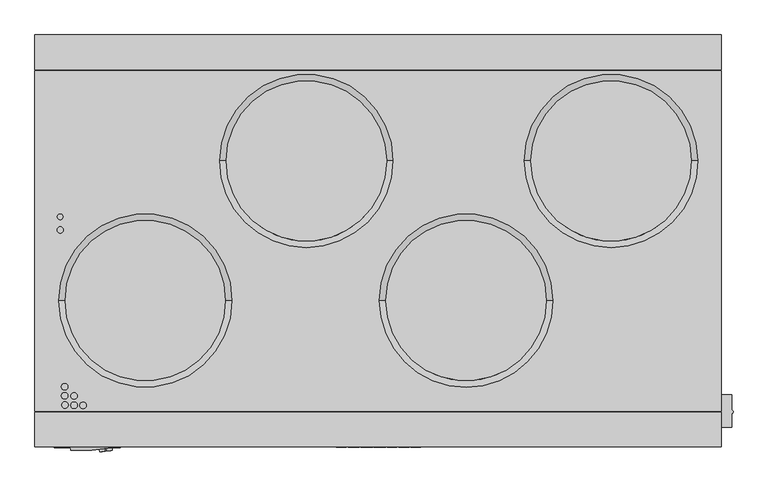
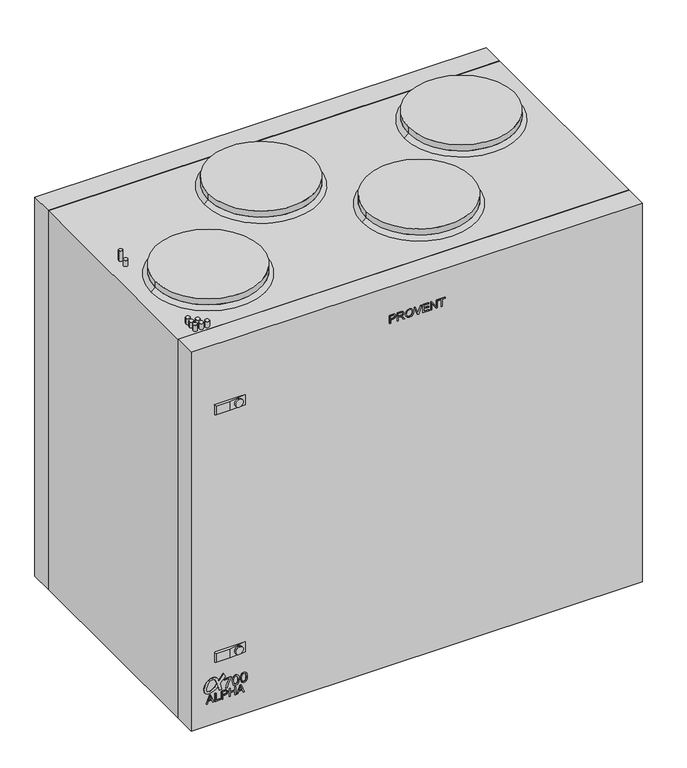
"""IFC4 building model written with IfcOpenShell, lengths in millimetres: proxy geometry, PROVENT_Вертикальная приточно-вытяжная установка_ALPHA 700 V_L : Provent ALPHA 700 V (L)."""

from ifc_helpers import new_model, si_unit, point, frame, frame_2d, origin, origin_with_axes, place, context, project, spatial, polyline, circle_curve, trimmed, segment, composite_curve, outline, extrude, faceted_brep, source, transform, mapped, element, save
from ifc_brep_helpers import plane_surface, revolved_surface, advanced_brep


def mechanical_equipment_38894424(model_context):
    return source(origin(), model_context, "Body", "SolidModel", [
        extrude(outline(composite_curve([segment(trimmed(circle_curve(frame_2d((105.733129, -470.0690454)), 0.5380284), [point((105.5307619, -469.5705255))], [point((105.5307619, -470.5675654))], True, "CARTESIAN"), True, "CONTINUOUS"), segment(polyline([(105.5307619, -470.5675654), (108.4438718, -471.6858035), (110.8786758, -472.9263981), (111.8121807, -473.5800452)]), True, "CONTINUOUS"), segment(trimmed(circle_curve(frame_2d((104.0893382, -483.5504512)), 12.6115539), [point((111.8121807, -473.5800452))], [point((116.6261852, -484.9211292))], False, "CARTESIAN"), True, "CONTINUOUS"), segment(trimmed(circle_curve(frame_2d((94.7661112, -482.5311246)), 21.9903379), [point((116.6261852, -484.9211292))], [point((104.4885666, -502.2554451))], False, "CARTESIAN"), True, "CONTINUOUS"), segment(trimmed(circle_curve(frame_2d((93.5739124, -483.7235654)), 21.5072137), [point((104.4885666, -502.2554451))], [point((86.750764, -504.1197633))], False, "CARTESIAN"), True, "CONTINUOUS"), segment(trimmed(circle_curve(frame_2d((92.3890877, -492.996238)), 12.4709065), [point((86.750764, -504.1197633))], [point((79.9366704, -492.3174069))], False, "CARTESIAN"), True, "CONTINUOUS"), segment(trimmed(circle_curve(frame_2d((110.0461474, -496.0216615)), 30.3364814), [point((79.9366704, -492.3174069))], [point((90.1381753, -473.1311667))], False, "CARTESIAN"), True, "CONTINUOUS"), segment(polyline([(90.1381753, -473.1311667), (97.4533974, -475.5080265)]), True, "CONTINUOUS"), segment(trimmed(circle_curve(frame_2d((112.8376087, -500.9701691)), 29.7488598), [point((97.4533974, -475.5080265))], [point((85.9068624, -488.3317527))], True, "CARTESIAN"), True, "CONTINUOUS"), segment(trimmed(circle_curve(frame_2d((94.2043298, -492.2256979)), 9.1657392), [point((85.9068624, -488.3317527))], [point((86.5295452, -497.2365317))], True, "CARTESIAN"), True, "CONTINUOUS"), segment(trimmed(circle_curve(frame_2d((91.0798658, -494.265647)), 5.4342961), [point((86.5295452, -497.2365317))], [point((91.5402338, -499.6804078))], True, "CARTESIAN"), True, "CONTINUOUS"), segment(trimmed(circle_curve(frame_2d((91.5850962, -480.9291601)), 18.7513014), [point((91.5402338, -499.6804078))], [point((99.8454243, -497.7630035))], True, "CARTESIAN"), True, "CONTINUOUS"), segment(trimmed(circle_curve(frame_2d((91.1893595, -472.70038)), 26.5153267), [point((99.8454243, -497.7630035))], [point((111.1844004, -490.1147675))], True, "CARTESIAN"), True, "CONTINUOUS"), segment(trimmed(circle_curve(frame_2d((105.8571487, -485.4750757)), 7.0644427), [point((111.1844004, -490.1147675))], [point((110.4868357, -480.139127))], True, "CARTESIAN"), True, "CONTINUOUS"), segment(trimmed(circle_curve(frame_2d((74.7273898, -542.7598367)), 72.1116583), [point((110.4868357, -480.139127))], [point((96.0155477, -473.8620458))], True, "CARTESIAN"), True, "CONTINUOUS"), segment(polyline([(96.0155477, -473.8620458), (80.1999436, -468.7232445), (80.1999436, -462.688951), (94.9084674, -466.4900485)]), True, "CONTINUOUS"), segment(trimmed(circle_curve(frame_2d((95.7729921, -463.1447298)), 3.4552222), [point((94.9084674, -466.4900485))], [point((98.5138308, -465.2486224))], True, "CARTESIAN"), True, "CONTINUOUS"), segment(polyline([(98.5138308, -465.2486224), (109.4841363, -455.018647)]), True, "CONTINUOUS"), segment(trimmed(circle_curve(frame_2d((110.1625275, -455.7461324)), 0.9947108), [point((109.4841363, -455.018647))], [point((110.8409186, -455.018647))], False, "CARTESIAN"), True, "CONTINUOUS"), segment(polyline([(110.8409186, -455.018647), (118.9566741, -458.9769654)]), True, "CONTINUOUS"), segment(trimmed(circle_curve(frame_2d((118.472789, -459.3205598)), 0.593466), [point((118.9566741, -458.9769654))], [point((118.8242858, -459.7987354))], False, "CARTESIAN"), True, "CONTINUOUS"), segment(polyline([(118.8242858, -459.7987354), (105.5307619, -469.5705255)]), True, "CONTINUOUS")], self_intersect=False)), frame((0.0, -322.0, 0.0), z_axis=(0.0, 1.0, 0.0), x_axis=(0.0, 0.0, 1.0)), (0.0, 0.0, 1.0), 1.0),
        extrude(outline(polyline([(55.4809879, -499.868008), (55.4809879, -497.2143525), (61.7595073, -494.9187689), (61.7595073, -486.6438766), (55.4809879, -484.3433878), (55.4809879, -481.6897324), (75.57225, -489.7095598), (75.57225, -491.8481805), (55.4809879, -499.868008)]), holes=[polyline([(64.2709151, -493.9966114), (69.6419922, -492.029669), (73.0608422, -490.7788702), (69.210344, -489.3711084), (64.2709151, -487.561129), (64.2709151, -493.9966114)])]), frame((0.0, -322.0, 0.0), z_axis=(0.0, 1.0, 0.0), x_axis=(0.0, 0.0, 1.0)), (0.0, 0.0, 1.0), 5.0),
        extrude(outline(polyline([(55.4809879, -479.0066463), (55.4809879, -466.4496076), (57.9923957, -466.4496076), (57.9923957, -476.4952386), (75.57225, -476.4952386), (75.57225, -479.0066463), (55.4809879, -479.0066463)])), frame((0.0, -322.0, 0.0), z_axis=(0.0, 1.0, 0.0), x_axis=(0.0, 0.0, 1.0)), (0.0, 0.0, 1.0), 5.0),
        extrude(outline(polyline([(55.4809879, -463.6242738), (55.4809879, -461.1128661), (63.6430631, -461.1128661), (63.6430631, -456.006664), (65.4187069, -450.1720556), (69.7597144, -448.5558273), (72.499209, -449.1542487), (74.441626, -450.7361413), (75.3809513, -453.1764252), (75.57225, -456.1783423), (75.57225, -463.6242738), (55.4809879, -463.6242738)]), holes=[polyline([(66.1544709, -461.1128661), (73.0608422, -461.1128661), (73.0608422, -455.9183723), (72.8891639, -453.4069646), (71.7511823, -451.7122548), (69.6714228, -451.0672351), (67.0766284, -452.1610709), (66.1544709, -455.8595112), (66.1544709, -461.1128661)])]), frame((0.0, -322.0, 0.0), z_axis=(0.0, 1.0, 0.0), x_axis=(0.0, 0.0, 1.0)), (0.0, 0.0, 1.0), 5.0),
        extrude(outline(polyline([(55.4809879, -445.1026417), (55.4809879, -442.5912339), (64.898767, -442.5912339), (64.898767, -431.917751), (55.4809879, -431.917751), (55.4809879, -429.4063432), (75.57225, -429.4063432), (75.57225, -431.917751), (67.4101748, -431.917751), (67.4101748, -442.5912339), (75.57225, -442.5912339), (75.57225, -445.1026417), (55.4809879, -445.1026417)])), frame((0.0, -322.0, 0.0), z_axis=(0.0, 1.0, 0.0), x_axis=(0.0, 0.0, 1.0)), (0.0, 0.0, 1.0), 5.0),
        extrude(outline(polyline([(55.4809879, -427.3511091), (55.4809879, -424.6974537), (61.7595073, -422.40187), (61.7595073, -414.1269777), (55.4809879, -411.8264889), (55.4809879, -409.1728335), (75.57225, -417.192661), (75.57225, -419.3312816), (55.4809879, -427.3511091)]), holes=[polyline([(64.2709151, -421.4797125), (69.6419922, -419.5127701), (73.0608422, -418.2619713), (69.210344, -416.8542095), (64.2709151, -415.0442301), (64.2709151, -421.4797125)])]), frame((0.0, -322.0, 0.0), z_axis=(0.0, 1.0, 0.0), x_axis=(0.0, 0.0, 1.0)), (0.0, 0.0, 1.0), 5.0),
        extrude(outline(polyline([(101.1927708, -457.0053647), (101.1927708, -443.663511), (94.6965879, -448.4091887), (86.6920888, -451.8335569), (79.6103604, -453.08129), (79.6103604, -449.9420304), (86.4345714, -448.7770707), (95.0399444, -445.1994183), (101.7936447, -440.5242513), (104.3320305, -440.5242513), (104.3320305, -457.0053647), (101.1927708, -457.0053647)])), frame((0.0, -322.0, 0.0), z_axis=(0.0, 1.0, 0.0), x_axis=(0.0, 0.0, 1.0)), (0.0, 0.0, 1.0), 5.0),
        extrude(outline(polyline([(91.9650641, -437.777399), (81.6091859, -435.2758015), (79.2179529, -429.5368424), (80.5944447, -424.9413831), (84.7699054, -422.2098593), (91.9650641, -421.2962857), (97.8665044, -421.8665028), (101.5821126, -423.3380307), (103.9150975, -425.8702851), (104.7244379, -429.5368424), (103.3571432, -434.1139075), (99.1908796, -436.8546284), (91.9650641, -437.777399)]), holes=[polyline([(91.9711954, -434.6381394), (99.9051838, -433.1175604), (101.5851782, -429.5736306), (99.6783232, -425.8580224), (91.9711954, -424.4355454), (84.1812942, -425.9070733), (82.3572126, -429.5368424), (84.1751628, -433.1666114), (91.9711954, -434.6381394)])]), frame((0.0, -322.0, 0.0), z_axis=(0.0, 1.0, 0.0), x_axis=(0.0, 0.0, 1.0)), (0.0, 0.0, 1.0), 5.0),
        extrude(outline(polyline([(91.9650641, -418.5494334), (81.6091859, -416.0478359), (79.2179529, -410.3088767), (80.5944447, -405.7134175), (84.7699054, -402.9818937), (91.9650641, -402.0683201), (97.8665044, -402.6385371), (101.5821126, -404.1100651), (103.9150975, -406.6423195), (104.7244379, -410.3088767), (103.3571432, -414.8859419), (99.1908796, -417.6266628), (91.9650641, -418.5494334)]), holes=[polyline([(91.9711954, -415.4101737), (99.9051838, -413.8895948), (101.5851782, -410.3456649), (99.6783232, -406.6300568), (91.9711954, -405.2075797), (84.1812942, -406.6791077), (82.3572126, -410.3088767), (84.1751628, -413.9386458), (91.9711954, -415.4101737)])]), frame((0.0, -322.0, 0.0), z_axis=(0.0, 1.0, 0.0), x_axis=(0.0, 0.0, 1.0)), (0.0, 0.0, 1.0), 5.0),
        extrude(outline(polyline([(858.040157, -64.9826756), (858.040157, -62.4712679), (866.2022322, -62.4712679), (866.2022322, -57.3650658), (867.977876, -51.5304573), (872.3188835, -49.9142291), (875.0583781, -50.5126505), (877.0007951, -52.0945431), (877.9401204, -54.534827), (878.1314191, -57.536744), (878.1314191, -64.9826756), (858.040157, -64.9826756)]), holes=[polyline([(868.71364, -62.4712679), (875.6200113, -62.4712679), (875.6200113, -57.2767741), (875.448333, -54.7653663), (874.3103514, -53.0706566), (872.2305919, -52.4256369), (869.6357975, -53.5194727), (868.71364, -57.217913), (868.71364, -62.4712679)])]), frame((0.0, -322.0, 0.0), z_axis=(0.0, 1.0, 0.0), x_axis=(0.0, 0.0, 1.0)), (0.0, 0.0, 1.0), 5.0),
        extrude(outline(polyline([(858.040157, -46.4610434), (858.040157, -43.9496357), (866.8300842, -43.9496357), (866.2635459, -38.2670851), (864.9612436, -36.9402574), (862.2045812, -35.0517965), (858.040157, -32.4373818), (858.040157, -29.5188513), (863.4848106, -32.86903), (866.0697947, -34.9046437), (867.1440101, -36.3320258), (869.0128507, -32.1259084), (872.6328095, -30.764745), (875.6715148, -31.5863481), (877.5894063, -33.7838299), (878.1314191, -37.8035538), (878.1314191, -46.4610434), (858.040157, -46.4610434)]), holes=[polyline([(869.3414919, -43.9496357), (875.6200113, -43.9496357), (875.6200113, -37.6956418), (874.7518098, -34.3381054), (872.5396127, -33.2761527), (870.8350928, -33.8328808), (869.6971112, -35.4613718), (869.3414919, -38.3283988), (869.3414919, -43.9496357)])]), frame((0.0, -322.0, 0.0), z_axis=(0.0, 1.0, 0.0), x_axis=(0.0, 0.0, 1.0)), (0.0, 0.0, 1.0), 5.0),
        extrude(outline(polyline([(867.820913, -27.3115593), (862.8201704, -26.1637675), (859.0922995, -22.7890633), (857.7262311, -17.7368173), (858.9623146, -12.8734173), (862.6018938, -9.3908011), (868.0514524, -8.1620752), (873.4274346, -9.3294874), (877.1209698, -12.7238119), (878.445345, -17.722102), (875.6249164, -24.6333784), (867.820913, -27.3115593)]), holes=[polyline([(867.7963875, -24.8001516), (874.0577391, -22.7056767), (875.9339373, -17.7073867), (874.9602763, -14.0212091), (872.2158766, -11.5269692), (868.0710728, -10.673483), (862.2781576, -12.6674034), (860.2376388, -17.7515325), (862.2585372, -22.7915159), (867.7963875, -24.8001516)])]), frame((0.0, -322.0, 0.0), z_axis=(0.0, 1.0, 0.0), x_axis=(0.0, 0.0, 1.0)), (0.0, 0.0, 1.0), 5.0),
        extrude(outline(polyline([(858.040157, 1.2262733), (858.040157, 3.8210677), (878.1314191, 11.4779182), (878.1314191, 8.7899271), (863.6564888, 3.4237551), (860.3946018, 2.3544448), (863.6564888, 1.2704192), (878.1314191, -4.0810376), (878.1314191, -6.7690287), (858.040157, 1.2262733)])), frame((0.0, -322.0, 0.0), z_axis=(0.0, 1.0, 0.0), x_axis=(0.0, 0.0, 1.0)), (0.0, 0.0, 1.0), 5.0),
        extrude(outline(polyline([(858.040157, 13.8127426), (858.040157, 28.5672632), (860.5515648, 28.5672632), (860.5515648, 16.3241504), (867.1440101, 16.3241504), (867.1440101, 27.6254853), (869.6554179, 27.6254853), (869.6554179, 16.3241504), (875.6200113, 16.3241504), (875.6200113, 28.2533372), (878.1314191, 28.2533372), (878.1314191, 13.8127426), (858.040157, 13.8127426)])), frame((0.0, -322.0, 0.0), z_axis=(0.0, 1.0, 0.0), x_axis=(0.0, 0.0, 1.0)), (0.0, 0.0, 1.0), 5.0),
        extrude(outline(polyline([(858.040157, 32.3343748), (858.040157, 34.8457826), (873.9620898, 34.8457826), (858.040157, 45.3426822), (858.040157, 48.0306733), (878.1314191, 48.0306733), (878.1314191, 45.5192655), (862.2143914, 45.5192655), (878.1314191, 35.0223659), (878.1314191, 32.3343748), (858.040157, 32.3343748)])), frame((0.0, -322.0, 0.0), z_axis=(0.0, 1.0, 0.0), x_axis=(0.0, 0.0, 1.0)), (0.0, 0.0, 1.0), 5.0),
        extrude(outline(polyline([(858.040157, 57.4484524), (858.040157, 59.9598601), (875.6200113, 59.9598601), (875.6200113, 66.5523055), (878.1314191, 66.5523055), (878.1314191, 50.856007), (875.6200113, 50.856007), (875.6200113, 57.4484524), (858.040157, 57.4484524)])), frame((0.0, -322.0, 0.0), z_axis=(0.0, 1.0, 0.0), x_axis=(0.0, 0.0, 1.0)), (0.0, 0.0, 1.0), 5.0),
        extrude(outline(composite_curve([segment(trimmed(circle_curve(frame_2d((137.0, -93.0)), 125.0), [point((12.0, -93.0))], [point((262.0, -93.0))], False, "CARTESIAN"), True, "CONTINUOUS"), segment(trimmed(circle_curve(frame_2d((137.0, -93.0)), 125.0), [point((262.0, -93.0))], [point((12.0, -93.0))], False, "CARTESIAN"), True, "CONTINUOUS")], self_intersect=False)), frame((0.0, 0.0, 958.5199387), z_axis=(0.0, 0.0, 1.0), x_axis=(1.0, 0.0, 0.0)), (0.0, 0.0, 1.0), 15.0),
        advanced_brep(
        [(12.0, -93.0, 958.5199387), (262.0, -93.0, 958.5199387), (2.0, -93.0, 950.0), (272.0, -93.0, 950.0)],
        [
            (0, 1, circle_curve(frame((137.0, -93.0, 958.5199387), z_axis=(0.0, 0.0, 1.0), x_axis=(-1.0, 0.0, 0.0)), 125.0)),
            (1, 0, circle_curve(frame((137.0, -93.0, 958.5199387), z_axis=(0.0, 0.0, 1.0), x_axis=(1.0, 0.0, 0.0)), 125.0)),
            (2, 3, circle_curve(frame((137.0, -93.0, 950.0), z_axis=(0.0, 0.0, -1.0), x_axis=(1.0, 0.0, 0.0)), 135.0)),
            (3, 2, circle_curve(frame((137.0, -93.0, 950.0), z_axis=(0.0, 0.0, -1.0), x_axis=(-1.0, 0.0, 0.0)), 135.0)),
            (3, 1),
            (0, 2),
        ],
        [
            plane_surface(frame((137.0, -93.0, 958.5199387), z_axis=(0.0, 0.0, 1.0), x_axis=(0.0, -1.0, 0.0))),
            plane_surface(frame((137.0, -93.0, 950.0), z_axis=(0.0, 0.0, -1.0), x_axis=(0.0, -1.0, 0.0))),
            revolved_surface(polyline([(12.000000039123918, -93.0, 958.5199387), (2.0, -93.0, 950.0)]), (137.0, -93.0, 1065.019172), (0.0, 0.0, -1.0)),
            revolved_surface(polyline([(261.9999999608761, -93.0, 958.5199387), (272.0, -93.0, 950.0)]), (137.0, -93.0, 1065.019172), (0.0, 0.0, -1.0)),
        ],
        [
            (0, [[1, 2]]),
            (1, [[3, 4]]),
            (2, [[-4, 5, -1, 6]]),
            (3, [[-3, -6, -2, -5]]),
        ],
    ),
        extrude(outline(composite_curve([segment(trimmed(circle_curve(frame_2d((-363.0, -93.0)), 125.0), [point((-488.0, -93.0))], [point((-238.0, -93.0))], False, "CARTESIAN"), True, "CONTINUOUS"), segment(trimmed(circle_curve(frame_2d((-363.0, -93.0)), 125.0), [point((-238.0, -93.0))], [point((-488.0, -93.0))], False, "CARTESIAN"), True, "CONTINUOUS")], self_intersect=False)), frame((0.0, 0.0, 958.5199387), z_axis=(0.0, 0.0, 1.0), x_axis=(1.0, 0.0, 0.0)), (0.0, 0.0, 1.0), 15.0),
        advanced_brep(
        [(-488.0, -93.0, 958.5199387), (-238.0, -93.0, 958.5199387), (-498.0, -93.0, 950.0), (-228.0, -93.0, 950.0)],
        [
            (0, 1, circle_curve(frame((-363.0, -93.0, 958.5199387), z_axis=(0.0, 0.0, 1.0), x_axis=(-1.0, 0.0, 0.0)), 125.0)),
            (1, 0, circle_curve(frame((-363.0, -93.0, 958.5199387), z_axis=(0.0, 0.0, 1.0), x_axis=(1.0, 0.0, 0.0)), 125.0)),
            (2, 3, circle_curve(frame((-363.0, -93.0, 950.0), z_axis=(0.0, 0.0, -1.0), x_axis=(1.0, 0.0, 0.0)), 135.0)),
            (3, 2, circle_curve(frame((-363.0, -93.0, 950.0), z_axis=(0.0, 0.0, -1.0), x_axis=(-1.0, 0.0, 0.0)), 135.0)),
            (3, 1),
            (0, 2),
        ],
        [
            plane_surface(frame((-363.0, -93.0, 958.5199387), z_axis=(0.0, 0.0, 1.0), x_axis=(0.0, -1.0, 0.0))),
            plane_surface(frame((-363.0, -93.0, 950.0), z_axis=(0.0, 0.0, -1.0), x_axis=(0.0, -1.0, 0.0))),
            revolved_surface(polyline([(-487.9999999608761, -93.0, 958.5199387), (-498.0, -93.0, 950.0)]), (-363.0, -93.0, 1065.019172), (0.0, 0.0, -1.0)),
            revolved_surface(polyline([(-238.0000000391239, -93.0, 958.5199387), (-228.0, -93.0, 950.0)]), (-363.0, -93.0, 1065.019172), (0.0, 0.0, -1.0)),
        ],
        [
            (0, [[1, 2]]),
            (1, [[3, 4]]),
            (2, [[-4, 5, -1, 6]]),
            (3, [[-3, -6, -2, -5]]),
        ],
    ),
        extrude(outline(composite_curve([segment(trimmed(circle_curve(frame_2d((-112.0, 124.5881439)), 125.0), [point((-237.0, 124.5881439))], [point((13.0, 124.5881439))], False, "CARTESIAN"), True, "CONTINUOUS"), segment(trimmed(circle_curve(frame_2d((-112.0, 124.5881439)), 125.0), [point((13.0, 124.5881439))], [point((-237.0, 124.5881439))], False, "CARTESIAN"), True, "CONTINUOUS")], self_intersect=False)), frame((0.0, 0.0, 958.5199387), z_axis=(0.0, 0.0, 1.0), x_axis=(1.0, 0.0, 0.0)), (0.0, 0.0, 1.0), 15.0),
        advanced_brep(
        [(-237.0, 124.5881439, 958.5199387), (13.0, 124.5881439, 958.5199387), (-247.0, 124.5881439, 950.0), (23.0, 124.5881439, 950.0)],
        [
            (0, 1, circle_curve(frame((-112.0, 124.5881439, 958.5199387), z_axis=(0.0, 0.0, 1.0), x_axis=(-1.0, 0.0, 0.0)), 125.0)),
            (1, 0, circle_curve(frame((-112.0, 124.5881439, 958.5199387), z_axis=(0.0, 0.0, 1.0), x_axis=(1.0, 0.0, 0.0)), 125.0)),
            (2, 3, circle_curve(frame((-112.0, 124.5881439, 950.0), z_axis=(0.0, 0.0, -1.0), x_axis=(1.0, 0.0, 0.0)), 135.0)),
            (3, 2, circle_curve(frame((-112.0, 124.5881439, 950.0), z_axis=(0.0, 0.0, -1.0), x_axis=(-1.0, 0.0, 0.0)), 135.0)),
            (3, 1),
            (0, 2),
        ],
        [
            plane_surface(frame((-112.0, 124.5881439, 958.5199387), z_axis=(0.0, 0.0, 1.0), x_axis=(0.0, -1.0, 0.0))),
            plane_surface(frame((-112.0, 124.5881439, 950.0), z_axis=(0.0, 0.0, -1.0), x_axis=(0.0, -1.0, 0.0))),
            revolved_surface(polyline([(-236.9999999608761, 124.5881439, 958.5199387), (-247.0, 124.5881439, 950.0)]), (-112.0, 124.5881439, 1065.019172), (0.0, 0.0, -1.0)),
            revolved_surface(polyline([(12.999999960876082, 124.5881439, 958.5199387), (23.0, 124.5881439, 950.0)]), (-112.0, 124.5881439, 1065.019172), (0.0, 0.0, -1.0)),
        ],
        [
            (0, [[1, 2]]),
            (1, [[3, 4]]),
            (2, [[-4, 5, -1, 6]]),
            (3, [[-3, -6, -2, -5]]),
        ],
    ),
        extrude(outline(composite_curve([segment(trimmed(circle_curve(frame_2d((363.0, 124.5881439)), 125.0), [point((238.0, 124.5881439))], [point((488.0, 124.5881439))], False, "CARTESIAN"), True, "CONTINUOUS"), segment(trimmed(circle_curve(frame_2d((363.0, 124.5881439)), 125.0), [point((488.0, 124.5881439))], [point((238.0, 124.5881439))], False, "CARTESIAN"), True, "CONTINUOUS")], self_intersect=False)), frame((0.0, 0.0, 958.5199387), z_axis=(0.0, 0.0, 1.0), x_axis=(1.0, 0.0, 0.0)), (0.0, 0.0, 1.0), 15.0),
        extrude(outline(composite_curve([segment(trimmed(circle_curve(frame_2d((-495.5549535, 37.5161614)), 4.363615), [point((-491.1913384, 37.5161614))], [point((-499.9185685, 37.5161614))], False, "CARTESIAN"), True, "CONTINUOUS"), segment(trimmed(circle_curve(frame_2d((-495.5549535, 37.5161614)), 4.363615), [point((-499.9185685, 37.5161614))], [point((-491.1913384, 37.5161614))], False, "CARTESIAN"), True, "CONTINUOUS")], self_intersect=False)), frame((0.0, 0.0, 950.0), z_axis=(0.0, 0.0, 1.0), x_axis=(1.0, 0.0, 0.0)), (0.0, 0.0, 1.0), 26.0),
        extrude(outline(composite_curve([segment(trimmed(circle_curve(frame_2d((-495.5549535, 17.0594523)), 5.0), [point((-490.5549535, 17.0594523))], [point((-500.5549535, 17.0594523))], False, "CARTESIAN"), True, "CONTINUOUS"), segment(trimmed(circle_curve(frame_2d((-495.5549535, 17.0594523)), 5.0), [point((-500.5549535, 17.0594523))], [point((-490.5549535, 17.0594523))], False, "CARTESIAN"), True, "CONTINUOUS")], self_intersect=False)), frame((0.0, 0.0, 950.0), z_axis=(0.0, 0.0, 1.0), x_axis=(1.0, 0.0, 0.0)), (0.0, 0.0, 1.0), 15.0),
        extrude(outline(composite_curve([segment(trimmed(circle_curve(frame_2d((-488.6799535, -241.3585618)), 5.0), [point((-483.6799535, -241.3585618))], [point((-493.6799535, -241.3585618))], False, "CARTESIAN"), True, "CONTINUOUS"), segment(trimmed(circle_curve(frame_2d((-488.6799535, -241.3585618)), 5.0), [point((-493.6799535, -241.3585618))], [point((-483.6799535, -241.3585618))], False, "CARTESIAN"), True, "CONTINUOUS")], self_intersect=False)), frame((0.0, 0.0, 950.0), z_axis=(0.0, 0.0, 1.0), x_axis=(1.0, 0.0, 0.0)), (0.0, 0.0, 1.0), 15.0),
        extrude(outline(composite_curve([segment(trimmed(circle_curve(frame_2d((-473.9405338, -256.2023118)), 5.0), [point((-468.9405338, -256.2023118))], [point((-478.9405338, -256.2023118))], False, "CARTESIAN"), True, "CONTINUOUS"), segment(trimmed(circle_curve(frame_2d((-473.9405338, -256.2023118)), 5.0), [point((-478.9405338, -256.2023118))], [point((-468.9405338, -256.2023118))], False, "CARTESIAN"), True, "CONTINUOUS")], self_intersect=False)), frame((0.0, 0.0, 950.0), z_axis=(0.0, 0.0, 1.0), x_axis=(1.0, 0.0, 0.0)), (0.0, 0.0, 1.0), 15.0),
        extrude(outline(composite_curve([segment(trimmed(circle_curve(frame_2d((-459.9299535, -256.3585618)), 5.0), [point((-454.9299535, -256.3585618))], [point((-464.9299535, -256.3585618))], False, "CARTESIAN"), True, "CONTINUOUS"), segment(trimmed(circle_curve(frame_2d((-459.9299535, -256.3585618)), 5.0), [point((-464.9299535, -256.3585618))], [point((-454.9299535, -256.3585618))], False, "CARTESIAN"), True, "CONTINUOUS")], self_intersect=False)), frame((0.0, 0.0, 950.0), z_axis=(0.0, 0.0, 1.0), x_axis=(1.0, 0.0, 0.0)), (0.0, 0.0, 1.0), 15.0),
        extrude(outline(composite_curve([segment(trimmed(circle_curve(frame_2d((-488.6799535, -227.2960618)), 5.0), [point((-483.6799535, -227.2960618))], [point((-493.6799535, -227.2960618))], False, "CARTESIAN"), True, "CONTINUOUS"), segment(trimmed(circle_curve(frame_2d((-488.6799535, -227.2960618)), 5.0), [point((-493.6799535, -227.2960618))], [point((-483.6799535, -227.2960618))], False, "CARTESIAN"), True, "CONTINUOUS")], self_intersect=False)), frame((0.0, 0.0, 950.0), z_axis=(0.0, 0.0, 1.0), x_axis=(1.0, 0.0, 0.0)), (0.0, 0.0, 1.0), 15.0),
        extrude(outline(composite_curve([segment(trimmed(circle_curve(frame_2d((-488.120726, -255.7335618)), 5.0), [point((-483.120726, -255.7335618))], [point((-493.120726, -255.7335618))], False, "CARTESIAN"), True, "CONTINUOUS"), segment(trimmed(circle_curve(frame_2d((-488.120726, -255.7335618)), 5.0), [point((-493.120726, -255.7335618))], [point((-483.120726, -255.7335618))], False, "CARTESIAN"), True, "CONTINUOUS")], self_intersect=False)), frame((0.0, 0.0, 950.0), z_axis=(0.0, 0.0, 1.0), x_axis=(1.0, 0.0, 0.0)), (0.0, 0.0, 1.0), 15.0),
        extrude(outline(composite_curve([segment(trimmed(circle_curve(frame_2d((-473.9405338, -241.5938936)), 5.0), [point((-468.9405338, -241.5938936))], [point((-478.9405338, -241.5938936))], False, "CARTESIAN"), True, "CONTINUOUS"), segment(trimmed(circle_curve(frame_2d((-473.9405338, -241.5938936)), 5.0), [point((-478.9405338, -241.5938936))], [point((-468.9405338, -241.5938936))], False, "CARTESIAN"), True, "CONTINUOUS")], self_intersect=False)), frame((0.0, 0.0, 950.0), z_axis=(0.0, 0.0, 1.0), x_axis=(1.0, 0.0, 0.0)), (0.0, 0.0, 1.0), 15.0),
        advanced_brep(
        [(238.0, 124.5881439, 958.5199387), (488.0, 124.5881439, 958.5199387), (228.0, 124.5881439, 950.0), (498.0, 124.5881439, 950.0)],
        [
            (0, 1, circle_curve(frame((363.0, 124.5881439, 958.5199387), z_axis=(0.0, 0.0, 1.0), x_axis=(-1.0, 0.0, 0.0)), 125.0)),
            (1, 0, circle_curve(frame((363.0, 124.5881439, 958.5199387), z_axis=(0.0, 0.0, 1.0), x_axis=(1.0, 0.0, 0.0)), 125.0)),
            (2, 3, circle_curve(frame((363.0, 124.5881439, 950.0), z_axis=(0.0, 0.0, -1.0), x_axis=(1.0, 0.0, 0.0)), 135.0)),
            (3, 2, circle_curve(frame((363.0, 124.5881439, 950.0), z_axis=(0.0, 0.0, -1.0), x_axis=(-1.0, 0.0, 0.0)), 135.0)),
            (3, 1),
            (0, 2),
        ],
        [
            plane_surface(frame((363.0, 124.5881439, 958.5199387), z_axis=(0.0, 0.0, 1.0), x_axis=(0.0, -1.0, 0.0))),
            plane_surface(frame((363.0, 124.5881439, 950.0), z_axis=(0.0, 0.0, -1.0), x_axis=(0.0, -1.0, 0.0))),
            revolved_surface(polyline([(238.0000000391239, 124.5881439, 958.5199387), (228.0, 124.5881439, 950.0)]), (363.0, 124.5881439, 1065.019172), (0.0, 0.0, -1.0)),
            revolved_surface(polyline([(487.9999999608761, 124.5881439, 958.5199387), (498.0, 124.5881439, 950.0)]), (363.0, 124.5881439, 1065.019172), (0.0, 0.0, -1.0)),
        ],
        [
            (0, [[1, 2]]),
            (1, [[3, 4]]),
            (2, [[-4, 5, -1, 6]]),
            (3, [[-3, -6, -2, -5]]),
        ],
    ),
        extrude(outline(polyline([(-535.0, 264.818014), (535.0, 264.818014), (535.0, -265.61), (-535.0, -265.61), (-535.0, 264.818014)])), origin_with_axes(), (0.0, 0.0, 1.0), 950.0),
        extrude(outline(polyline([(-535.0, -267.418014), (535.0, -267.418014), (535.0, -321.0), (-535.0, -321.0), (-535.0, -267.418014)])), origin_with_axes(), (0.0, 0.0, 1.0), 950.0),
        extrude(outline(polyline([(-535.0, 321.0), (535.0, 321.0), (535.0, 266.818014), (-535.0, 266.818014), (-535.0, 321.0)])), origin_with_axes(), (0.0, 0.0, 1.0), 950.0),
        extrude(outline(composite_curve([segment(polyline([(550.9953883, -290.0717835), (534.9953883, -290.0717835), (534.9953883, -240.0717835), (551.1921273, -240.0717835), (551.1921273, -264.0292535)]), True, "CONTINUOUS"), segment(trimmed(circle_curve(frame_2d((550.5520018, -266.514007)), 2.565884), [point((551.1921273, -264.0292535))], [point((550.9953883, -269.041292))], False, "CARTESIAN"), True, "CONTINUOUS"), segment(polyline([(550.9953883, -269.041292), (550.9953883, -290.0717835)]), True, "CONTINUOUS")], self_intersect=False)), frame((0.0, 0.0, 440.9885126), z_axis=(0.0, 0.0, 1.0), x_axis=(1.0, 0.0, 0.0)), (0.0, 0.0, 1.0), 50.0),
        extrude(outline(composite_curve([segment(polyline([(550.9953883, -290.0717835), (534.9953883, -290.0717835), (534.9953883, -240.0717835), (551.1921273, -240.0717835), (551.1921273, -264.0292535)]), True, "CONTINUOUS"), segment(trimmed(circle_curve(frame_2d((550.5520018, -266.514007)), 2.565884), [point((551.1921273, -264.0292535))], [point((550.9953883, -269.041292))], False, "CARTESIAN"), True, "CONTINUOUS"), segment(polyline([(550.9953883, -269.041292), (550.9953883, -290.0717835)]), True, "CONTINUOUS")], self_intersect=False)), frame((0.0, 0.0, 750.9885126), z_axis=(0.0, 0.0, 1.0), x_axis=(1.0, 0.0, 0.0)), (0.0, 0.0, 1.0), 50.0),
        extrude(outline(composite_curve([segment(polyline([(550.9953883, -290.0717835), (534.9953883, -290.0717835), (534.9953883, -240.0717835), (551.1921273, -240.0717835), (551.1921273, -264.0292535)]), True, "CONTINUOUS"), segment(trimmed(circle_curve(frame_2d((550.5520018, -266.514007)), 2.565884), [point((551.1921273, -264.0292535))], [point((550.9953883, -269.041292))], False, "CARTESIAN"), True, "CONTINUOUS"), segment(polyline([(550.9953883, -269.041292), (550.9953883, -290.0717835)]), True, "CONTINUOUS")], self_intersect=False)), frame((0.0, 0.0, 135.9885126), z_axis=(0.0, 0.0, 1.0), x_axis=(1.0, 0.0, 0.0)), (0.0, 0.0, 1.0), 50.0),
        extrude(outline(composite_curve([segment(polyline([(-1.832016, 0.0), (0.0, 0.0)]), True, "CONTINUOUS"), segment(trimmed(circle_curve(frame_2d((0.0, -9.1119152)), 9.1119152), [point((0.0, 0.0))], [point((0.0, -18.2238303))], False, "CARTESIAN"), True, "CONTINUOUS"), segment(polyline([(0.0, -18.2238303), (-1.832016, -18.2238303)]), True, "CONTINUOUS"), segment(trimmed(circle_curve(frame_2d((-1.832016, -9.1119152)), 9.1119152), [point((-1.832016, -18.2238303))], [point((-1.832016, 0.0))], False, "CARTESIAN"), True, "CONTINUOUS")], self_intersect=False)), frame((-423.264872, -327.2971851, 778.4701356), z_axis=(-0.11489459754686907, 0.9933776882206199, 0.0), x_axis=(0.9933776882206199, 0.11489459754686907, 0.0)), (0.0, 0.0, 1.0), 3.9271589),
        faceted_brep([(-478.7639794, -326.0, 776.6246405), (-446.2299564, -326.0, 776.6246405), (-446.2299564, -326.0, 797.9370938), (-478.7639794, -326.0, 797.9370938), (-480.2469676, -321.0, 773.9074374), (-480.2469676, -321.0, 800.2463053), (-403.0, -321.0, 800.2463053), (-403.0, -321.0, 773.9074374)], [[[0, 1, 2, 3]], [[4, 5, 6, 7]], [[4, 7, 1, 0]], [[7, 6, 2, 1]], [[6, 5, 3, 2]], [[5, 4, 0, 3]]]),
        extrude(outline(composite_curve([segment(polyline([(-1.832016, 0.0), (0.0, 0.0)]), True, "CONTINUOUS"), segment(trimmed(circle_curve(frame_2d((0.0, -9.1119152)), 9.1119152), [point((0.0, 0.0))], [point((0.0, -18.2238303))], False, "CARTESIAN"), True, "CONTINUOUS"), segment(polyline([(0.0, -18.2238303), (-1.832016, -18.2238303)]), True, "CONTINUOUS"), segment(trimmed(circle_curve(frame_2d((-1.832016, -9.1119152)), 9.1119152), [point((-1.832016, -18.2238303))], [point((-1.832016, 0.0))], False, "CARTESIAN"), True, "CONTINUOUS")], self_intersect=False)), frame((-423.264872, -327.2971851, 158.4701356), z_axis=(-0.11489459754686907, 0.9933776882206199, 0.0), x_axis=(0.9933776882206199, 0.11489459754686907, 0.0)), (0.0, 0.0, 1.0), 3.9271589),
        faceted_brep([(-478.7639794, -326.0, 156.6246405), (-446.2299564, -326.0, 156.6246405), (-446.2299564, -326.0, 177.9370938), (-478.7639794, -326.0, 177.9370938), (-480.2469676, -321.0, 153.9074374), (-480.2469676, -321.0, 180.2463053), (-403.0, -321.0, 180.2463053), (-403.0, -321.0, 153.9074374)], [[[0, 1, 2, 3]], [[4, 5, 6, 7]], [[4, 7, 1, 0]], [[7, 6, 2, 1]], [[6, 5, 3, 2]], [[5, 4, 0, 3]]]),
    ])


if __name__ == "__main__":
    model = new_model("IFC4")
    model_context = context("Model", 3, world=origin())
    ifc_project = project(units=[si_unit("LENGTHUNIT", "METRE", prefix="MILLI")], contexts=[model_context])
    site = spatial("IfcSite", under=ifc_project)
    building = spatial("IfcBuilding", under=site)
    placement = place(None, origin())
    mechanical_equipment_shape = mechanical_equipment_38894424(model_context)
    element("IfcBuildingElementProxy", 1, Name="PROVENT_Вертикальная приточно-вытяжная установка_ALPHA 700 V_L : Provent ALPHA 700 V (L)", ObjectType="PROVENT_Вертикальная приточно-вытяжная установка_ALPHA 700 V_L : Provent ALPHA 700 V (L)", at=placement, inside=building, context=model_context, shape_type="MappedRepresentation", body=[
        mapped(mechanical_equipment_shape, transform((0.0, 0.0, 0.0), x_axis=(1.0, 0.0, 0.0), y_axis=(0.0, 1.0, 0.0), z_axis=(0.0, 0.0, 1.0))),
    ])
    save(model, "model.ifc")
